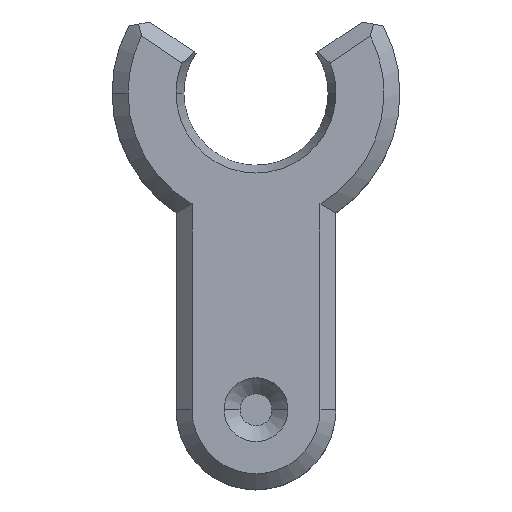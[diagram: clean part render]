
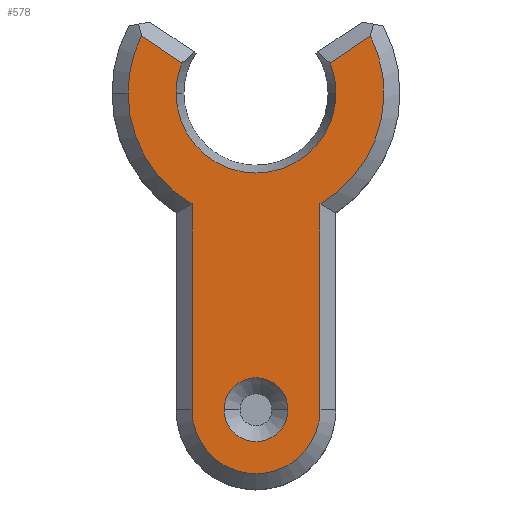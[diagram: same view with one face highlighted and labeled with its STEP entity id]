
A CAD part, top view. The second image highlights one B-rep face of the part: STEP entity #578.
In plain terms, the highlighted planar face has unit normal (0, 0, 1).
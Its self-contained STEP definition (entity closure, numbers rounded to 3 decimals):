
#17 = CIRCLE ( 'NONE', #71, 1. ) ;
#21 = CARTESIAN_POINT ( 'NONE',  ( 0., 4.5, 5. ) ) ;
#37 = DIRECTION ( 'NONE',  ( 0., 0., 1. ) ) ;
#48 = AXIS2_PLACEMENT_3D ( 'NONE', #924, #1557, #1543 ) ;
#52 = FACE_BOUND ( 'NONE', #1149, .T. ) ;
#56 = DIRECTION ( 'NONE',  ( 1., 0., 0. ) ) ;
#67 = AXIS2_PLACEMENT_3D ( 'NONE', #182, #1007, #773 ) ;
#71 = AXIS2_PLACEMENT_3D ( 'NONE', #1592, #1086, #613 ) ;
#75 = DIRECTION ( 'NONE',  ( 1., 0., 0. ) ) ;
#87 = DIRECTION ( 'NONE',  ( 0., 0., 1. ) ) ;
#95 = VERTEX_POINT ( 'NONE', #1238 ) ;
#106 = ORIENTED_EDGE ( 'NONE', *, *, #1091, .T. ) ;
#121 = VERTEX_POINT ( 'NONE', #514 ) ;
#140 = VERTEX_POINT ( 'NONE', #1585 ) ;
#151 = VECTOR ( 'NONE', #724, 1000. ) ;
#153 = ORIENTED_EDGE ( 'NONE', *, *, #201, .T. ) ;
#176 = DIRECTION ( 'NONE',  ( 0., 0., -1. ) ) ;
#179 = DIRECTION ( 'NONE',  ( 1., 0., 0. ) ) ;
#182 = CARTESIAN_POINT ( 'NONE',  ( 0., 4.5, 5. ) ) ;
#192 = CIRCLE ( 'NONE', #1218, 4. ) ;
#201 = EDGE_CURVE ( 'NONE', #95, #1092, #632, .T. ) ;
#235 = CARTESIAN_POINT ( 'NONE',  ( -3.604, 6.307, 5. ) ) ;
#277 = EDGE_CURVE ( 'NONE', #585, #121, #810, .T. ) ;
#289 = ORIENTED_EDGE ( 'NONE', *, *, #1026, .T. ) ;
#294 = EDGE_CURVE ( 'NONE', #121, #1315, #192, .T. ) ;
#308 = CARTESIAN_POINT ( 'NONE',  ( 0., 4.5, 5. ) ) ;
#346 = AXIS2_PLACEMENT_3D ( 'NONE', #1504, #780, #179 ) ;
#369 = CARTESIAN_POINT ( 'NONE',  ( 2., 1.036, 5. ) ) ;
#381 = CIRCLE ( 'NONE', #1279, 2.5 ) ;
#402 = EDGE_CURVE ( 'NONE', #1092, #489, #1310, .T. ) ;
#430 = VECTOR ( 'NONE', #968, 1000. ) ;
#467 = VERTEX_POINT ( 'NONE', #841 ) ;
#477 = LINE ( 'NONE', #235, #151 ) ;
#480 = CARTESIAN_POINT ( 'NONE',  ( 0., 4.5, 5. ) ) ;
#489 = VERTEX_POINT ( 'NONE', #369 ) ;
#505 = AXIS2_PLACEMENT_3D ( 'NONE', #308, #1163, #56 ) ;
#514 = CARTESIAN_POINT ( 'NONE',  ( -4., 4.5, 5. ) ) ;
#516 = CIRCLE ( 'NONE', #838, 2.5 ) ;
#520 = DIRECTION ( 'NONE',  ( 1., 0., 0. ) ) ;
#521 = DIRECTION ( 'NONE',  ( 0., 0., 1. ) ) ;
#545 = CARTESIAN_POINT ( 'NONE',  ( -2.5, 1.6, 5. ) ) ;
#553 = EDGE_CURVE ( 'NONE', #489, #908, #960, .T. ) ;
#574 = CARTESIAN_POINT ( 'NONE',  ( -0.995, 3.234, 5. ) ) ;
#576 = AXIS2_PLACEMENT_3D ( 'NONE', #480, #1128, #520 ) ;
#578 = ADVANCED_FACE ( 'NONE', ( #1029, #52 ), #1160, .F. ) ;
#585 = VERTEX_POINT ( 'NONE', #654 ) ;
#610 = ORIENTED_EDGE ( 'NONE', *, *, #906, .F. ) ;
#613 = DIRECTION ( 'NONE',  ( 1., 0., 0. ) ) ;
#628 = DIRECTION ( 'NONE',  ( 1., 0., 0. ) ) ;
#632 = CIRCLE ( 'NONE', #346, 2. ) ;
#639 = AXIS2_PLACEMENT_3D ( 'NONE', #545, #176, #901 ) ;
#642 = VERTEX_POINT ( 'NONE', #1404 ) ;
#654 = CARTESIAN_POINT ( 'NONE',  ( -3.578, 6.289, 5. ) ) ;
#678 = EDGE_CURVE ( 'NONE', #140, #467, #1508, .T. ) ;
#709 = ORIENTED_EDGE ( 'NONE', *, *, #277, .T. ) ;
#724 = DIRECTION ( 'NONE',  ( -0.831, 0.556, 0. ) ) ;
#738 = VECTOR ( 'NONE', #957, 1000. ) ;
#773 = DIRECTION ( 'NONE',  ( 1., 0., 0. ) ) ;
#780 = DIRECTION ( 'NONE',  ( 0., 0., 1. ) ) ;
#789 = EDGE_CURVE ( 'NONE', #1361, #642, #381, .T. ) ;
#808 = ORIENTED_EDGE ( 'NONE', *, *, #402, .T. ) ;
#810 = CIRCLE ( 'NONE', #505, 4. ) ;
#812 = VECTOR ( 'NONE', #1423, 1000. ) ;
#838 = AXIS2_PLACEMENT_3D ( 'NONE', #21, #521, #628 ) ;
#841 = CARTESIAN_POINT ( 'NONE',  ( -2.5, 4.5, 5. ) ) ;
#849 = LINE ( 'NONE', #1559, #430 ) ;
#900 = ORIENTED_EDGE ( 'NONE', *, *, #294, .T. ) ;
#901 = DIRECTION ( 'NONE',  ( -1., 0., 0. ) ) ;
#906 = EDGE_CURVE ( 'NONE', #1244, #1068, #17, .T. ) ;
#908 = VERTEX_POINT ( 'NONE', #1234 ) ;
#919 = CARTESIAN_POINT ( 'NONE',  ( 0., 4.5, 5. ) ) ;
#924 = CARTESIAN_POINT ( 'NONE',  ( 0., -5.4, 5. ) ) ;
#930 = ORIENTED_EDGE ( 'NONE', *, *, #992, .T. ) ;
#957 = DIRECTION ( 'NONE',  ( -0.831, -0.556, 0. ) ) ;
#960 = CIRCLE ( 'NONE', #576, 4. ) ;
#967 = CIRCLE ( 'NONE', #48, 1. ) ;
#968 = DIRECTION ( 'NONE',  ( 0., -1., 0. ) ) ;
#975 = CARTESIAN_POINT ( 'NONE',  ( -1., -5.4, 5. ) ) ;
#992 = EDGE_CURVE ( 'NONE', #140, #585, #477, .T. ) ;
#995 = ORIENTED_EDGE ( 'NONE', *, *, #789, .F. ) ;
#1007 = DIRECTION ( 'NONE',  ( 0., 0., 1. ) ) ;
#1026 = EDGE_CURVE ( 'NONE', #1315, #95, #849, .T. ) ;
#1029 = FACE_OUTER_BOUND ( 'NONE', #1250, .T. ) ;
#1048 = CARTESIAN_POINT ( 'NONE',  ( 2.5, 4.5, 5. ) ) ;
#1062 = CARTESIAN_POINT ( 'NONE',  ( 2., -5.4, 5. ) ) ;
#1068 = VERTEX_POINT ( 'NONE', #975 ) ;
#1086 = DIRECTION ( 'NONE',  ( 0., 0., 1. ) ) ;
#1091 = EDGE_CURVE ( 'NONE', #908, #642, #1567, .T. ) ;
#1092 = VERTEX_POINT ( 'NONE', #1062 ) ;
#1128 = DIRECTION ( 'NONE',  ( 0., 0., 1. ) ) ;
#1149 = EDGE_LOOP ( 'NONE', ( #1494, #610 ) ) ;
#1160 = PLANE ( 'NONE',  #639 ) ;
#1163 = DIRECTION ( 'NONE',  ( 0., 0., 1. ) ) ;
#1175 = CARTESIAN_POINT ( 'NONE',  ( -2., 1.036, 5. ) ) ;
#1191 = CARTESIAN_POINT ( 'NONE',  ( 2., 1.6, 5. ) ) ;
#1194 = ORIENTED_EDGE ( 'NONE', *, *, #678, .F. ) ;
#1218 = AXIS2_PLACEMENT_3D ( 'NONE', #919, #37, #1416 ) ;
#1232 = ORIENTED_EDGE ( 'NONE', *, *, #553, .T. ) ;
#1234 = CARTESIAN_POINT ( 'NONE',  ( 3.578, 6.289, 5. ) ) ;
#1238 = CARTESIAN_POINT ( 'NONE',  ( -2., -5.4, 5. ) ) ;
#1244 = VERTEX_POINT ( 'NONE', #1503 ) ;
#1245 = EDGE_CURVE ( 'NONE', #467, #1361, #516, .T. ) ;
#1250 = EDGE_LOOP ( 'NONE', ( #709, #900, #289, #153, #808, #1232, #106, #995, #1269, #1194, #930 ) ) ;
#1269 = ORIENTED_EDGE ( 'NONE', *, *, #1245, .F. ) ;
#1279 = AXIS2_PLACEMENT_3D ( 'NONE', #1563, #87, #75 ) ;
#1310 = LINE ( 'NONE', #1191, #812 ) ;
#1315 = VERTEX_POINT ( 'NONE', #1175 ) ;
#1361 = VERTEX_POINT ( 'NONE', #1048 ) ;
#1404 = CARTESIAN_POINT ( 'NONE',  ( 2.314, 5.445, 5. ) ) ;
#1416 = DIRECTION ( 'NONE',  ( 1., 0., 0. ) ) ;
#1423 = DIRECTION ( 'NONE',  ( 0., 1., 0. ) ) ;
#1494 = ORIENTED_EDGE ( 'NONE', *, *, #1599, .F. ) ;
#1503 = CARTESIAN_POINT ( 'NONE',  ( 1., -5.4, 5. ) ) ;
#1504 = CARTESIAN_POINT ( 'NONE',  ( 0., -5.4, 5. ) ) ;
#1508 = CIRCLE ( 'NONE', #67, 2.5 ) ;
#1543 = DIRECTION ( 'NONE',  ( 1., 0., 0. ) ) ;
#1557 = DIRECTION ( 'NONE',  ( 0., 0., 1. ) ) ;
#1559 = CARTESIAN_POINT ( 'NONE',  ( -2., 1.6, 5. ) ) ;
#1563 = CARTESIAN_POINT ( 'NONE',  ( 0., 4.5, 5. ) ) ;
#1567 = LINE ( 'NONE', #574, #738 ) ;
#1585 = CARTESIAN_POINT ( 'NONE',  ( -2.314, 5.445, 5. ) ) ;
#1592 = CARTESIAN_POINT ( 'NONE',  ( 0., -5.4, 5. ) ) ;
#1599 = EDGE_CURVE ( 'NONE', #1068, #1244, #967, .T. ) ;
